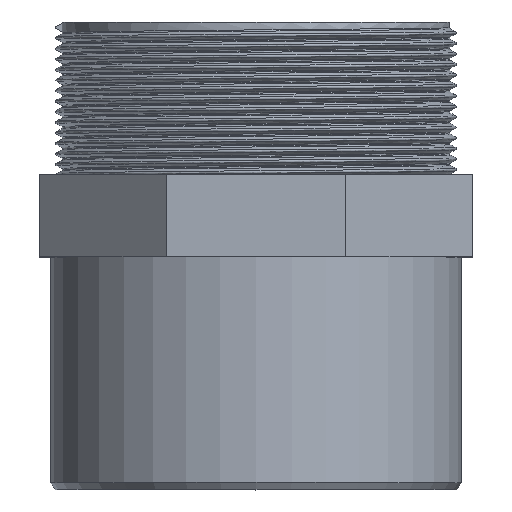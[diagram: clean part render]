
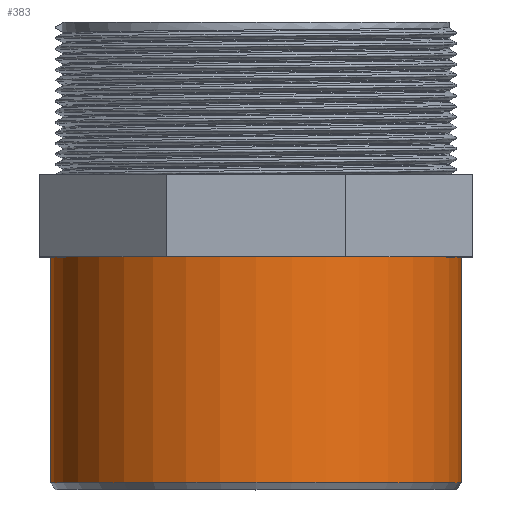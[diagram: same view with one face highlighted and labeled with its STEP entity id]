
A CAD part, top view. The second image highlights one B-rep face of the part: STEP entity #383.
In plain terms, the highlighted cylindrical face has radius 45 mm (diameter 90 mm), a full revolution.
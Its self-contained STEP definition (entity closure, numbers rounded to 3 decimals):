
#100=CYLINDRICAL_SURFACE('',#413,45.);
#106=FACE_BOUND('',#145,.T.);
#117=FACE_OUTER_BOUND('',#144,.T.);
#144=EDGE_LOOP('',(#281));
#145=EDGE_LOOP('',(#282));
#179=CIRCLE('',#411,45.);
#181=CIRCLE('',#414,45.);
#192=VERTEX_POINT('',#543);
#194=VERTEX_POINT('',#548);
#228=EDGE_CURVE('',#192,#192,#179,.T.);
#230=EDGE_CURVE('',#194,#194,#181,.T.);
#281=ORIENTED_EDGE('',*,*,#230,.F.);
#282=ORIENTED_EDGE('',*,*,#228,.F.);
#383=ADVANCED_FACE('',(#117,#106),#100,.T.);
#411=AXIS2_PLACEMENT_3D('',#544,#448,#449);
#413=AXIS2_PLACEMENT_3D('',#547,#452,#453);
#414=AXIS2_PLACEMENT_3D('',#549,#454,#455);
#448=DIRECTION('center_axis',(0.,-1.,0.));
#449=DIRECTION('ref_axis',(-1.,0.,0.));
#452=DIRECTION('center_axis',(0.,-1.,0.));
#453=DIRECTION('ref_axis',(-1.,0.,0.));
#454=DIRECTION('center_axis',(0.,1.,0.));
#455=DIRECTION('ref_axis',(-1.,0.,0.));
#543=CARTESIAN_POINT('',(45.,-58.5,0.));
#544=CARTESIAN_POINT('Origin',(0.,-58.5,0.));
#547=CARTESIAN_POINT('Origin',(0.,-9.,0.));
#548=CARTESIAN_POINT('',(45.,-9.,0.));
#549=CARTESIAN_POINT('Origin',(0.,-9.,0.));
